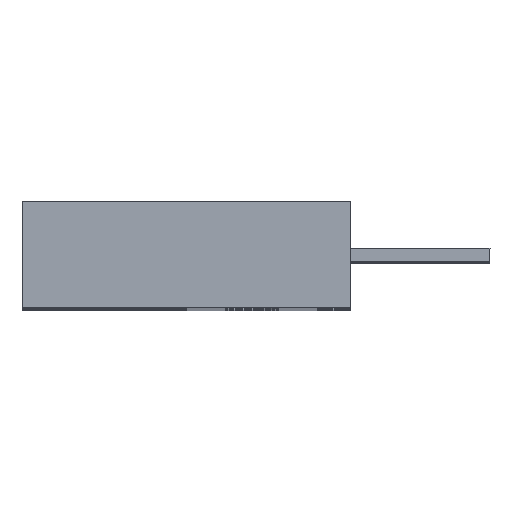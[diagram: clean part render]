
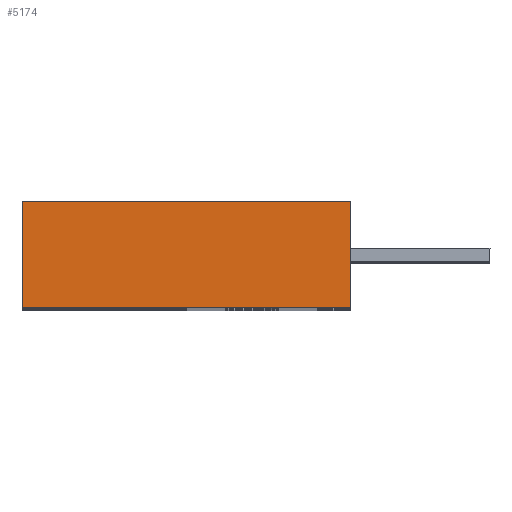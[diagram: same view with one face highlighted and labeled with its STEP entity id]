
A CAD part, top view. The second image highlights one B-rep face of the part: STEP entity #5174.
In plain terms, the highlighted planar face has unit normal (0, 0, 1).
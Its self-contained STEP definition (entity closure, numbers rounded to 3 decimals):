
#1545 = DIRECTION ( 'NONE',  ( 0., 0., 1. ) ) ;
#1795 = VECTOR ( 'NONE', #12799, 1000. ) ;
#2082 = DIRECTION ( 'NONE',  ( 0., -1., 0. ) ) ;
#2313 = EDGE_CURVE ( 'NONE', #3013, #15864, #8614, .T. ) ;
#3013 = VERTEX_POINT ( 'NONE', #9035 ) ;
#3391 = VECTOR ( 'NONE', #2082, 1000. ) ;
#4633 = VECTOR ( 'NONE', #8591, 1000. ) ;
#4814 = EDGE_LOOP ( 'NONE', ( #8976, #8036, #11195, #16470 ) ) ;
#5174 = ADVANCED_FACE ( 'NONE', ( #9374 ), #5421, .T. ) ;
#5421 = PLANE ( 'NONE',  #17225 ) ;
#5440 = CARTESIAN_POINT ( 'NONE',  ( -20., 6.5, 0. ) ) ;
#6651 = CARTESIAN_POINT ( 'NONE',  ( -20., 0., 0. ) ) ;
#6812 = LINE ( 'NONE', #7186, #1795 ) ;
#7186 = CARTESIAN_POINT ( 'NONE',  ( 0., 6.5, 0. ) ) ;
#7235 = CARTESIAN_POINT ( 'NONE',  ( -20., 0., 0. ) ) ;
#7265 = LINE ( 'NONE', #14768, #14371 ) ;
#8036 = ORIENTED_EDGE ( 'NONE', *, *, #2313, .T. ) ;
#8112 = DIRECTION ( 'NONE',  ( 1., 0., 0. ) ) ;
#8220 = LINE ( 'NONE', #8816, #3391 ) ;
#8263 = VERTEX_POINT ( 'NONE', #5440 ) ;
#8591 = DIRECTION ( 'NONE',  ( 1., 0., 0. ) ) ;
#8614 = LINE ( 'NONE', #7235, #4633 ) ;
#8816 = CARTESIAN_POINT ( 'NONE',  ( 0., 0., 0. ) ) ;
#8894 = EDGE_CURVE ( 'NONE', #8263, #11412, #6812, .T. ) ;
#8976 = ORIENTED_EDGE ( 'NONE', *, *, #12774, .T. ) ;
#9035 = CARTESIAN_POINT ( 'NONE',  ( -20., 0., 0. ) ) ;
#9374 = FACE_OUTER_BOUND ( 'NONE', #4814, .T. ) ;
#11195 = ORIENTED_EDGE ( 'NONE', *, *, #16531, .F. ) ;
#11412 = VERTEX_POINT ( 'NONE', #17249 ) ;
#12774 = EDGE_CURVE ( 'NONE', #8263, #3013, #7265, .T. ) ;
#12799 = DIRECTION ( 'NONE',  ( 1., 0., 0. ) ) ;
#14371 = VECTOR ( 'NONE', #14825, 1000. ) ;
#14768 = CARTESIAN_POINT ( 'NONE',  ( -20., 0., 0. ) ) ;
#14794 = CARTESIAN_POINT ( 'NONE',  ( 0., 0., 0. ) ) ;
#14825 = DIRECTION ( 'NONE',  ( 0., -1., 0. ) ) ;
#15864 = VERTEX_POINT ( 'NONE', #14794 ) ;
#16470 = ORIENTED_EDGE ( 'NONE', *, *, #8894, .F. ) ;
#16531 = EDGE_CURVE ( 'NONE', #11412, #15864, #8220, .T. ) ;
#17225 = AXIS2_PLACEMENT_3D ( 'NONE', #6651, #1545, #8112 ) ;
#17249 = CARTESIAN_POINT ( 'NONE',  ( 0., 6.5, 0. ) ) ;
